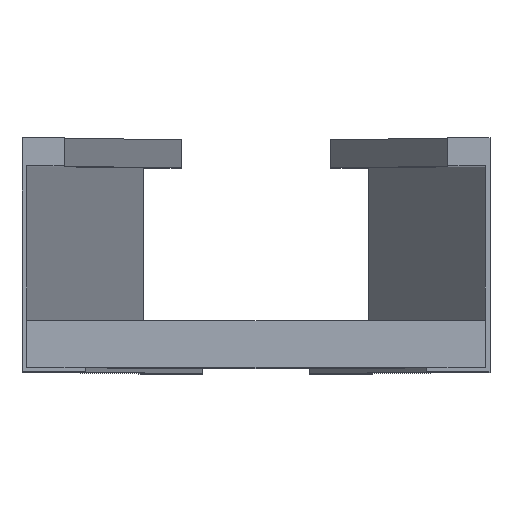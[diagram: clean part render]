
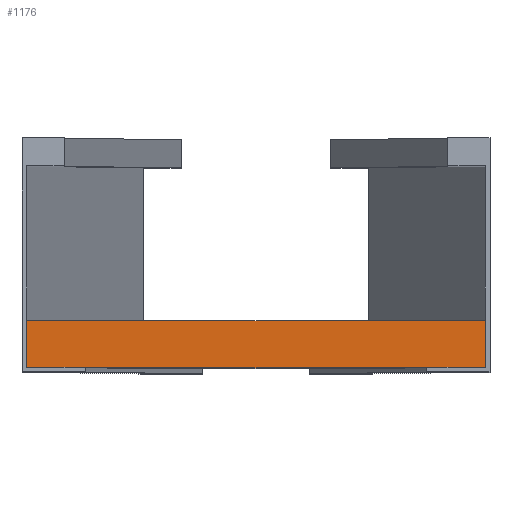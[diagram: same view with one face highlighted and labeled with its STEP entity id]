
A CAD part, top view. The second image highlights one B-rep face of the part: STEP entity #1176.
In plain terms, the highlighted planar face has unit normal (0, 0, 1).
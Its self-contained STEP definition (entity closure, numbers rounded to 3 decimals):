
#37 = ORIENTED_EDGE ( 'NONE', *, *, #247, .T. ) ;
#190 = CARTESIAN_POINT ( 'NONE',  ( 98., 0., 20.25 ) ) ;
#247 = EDGE_CURVE ( 'NONE', #2748, #1972, #1000, .T. ) ;
#248 = EDGE_CURVE ( 'NONE', #401, #2748, #1893, .T. ) ;
#401 = VERTEX_POINT ( 'NONE', #531 ) ;
#459 = ORIENTED_EDGE ( 'NONE', *, *, #248, .T. ) ;
#531 = CARTESIAN_POINT ( 'NONE',  ( 98., 20., 20.25 ) ) ;
#556 = CARTESIAN_POINT ( 'NONE',  ( -98., 20., 20.25 ) ) ;
#623 = ORIENTED_EDGE ( 'NONE', *, *, #3584, .F. ) ;
#802 = CARTESIAN_POINT ( 'NONE',  ( 98., 20., 20.25 ) ) ;
#803 = LINE ( 'NONE', #190, #2884 ) ;
#828 = VERTEX_POINT ( 'NONE', #3231 ) ;
#901 = DIRECTION ( 'NONE',  ( 0., -1., 0. ) ) ;
#1000 = LINE ( 'NONE', #1594, #2063 ) ;
#1104 = VECTOR ( 'NONE', #2492, 1000. ) ;
#1176 = ADVANCED_FACE ( 'NONE', ( #2421 ), #1479, .F. ) ;
#1479 = PLANE ( 'NONE',  #2393 ) ;
#1594 = CARTESIAN_POINT ( 'NONE',  ( -98., 20., 20.25 ) ) ;
#1891 = ORIENTED_EDGE ( 'NONE', *, *, #2219, .F. ) ;
#1893 = LINE ( 'NONE', #2811, #1104 ) ;
#1972 = VERTEX_POINT ( 'NONE', #2167 ) ;
#2019 = DIRECTION ( 'NONE',  ( 0., 0., -1. ) ) ;
#2020 = DIRECTION ( 'NONE',  ( -1., 0., 0. ) ) ;
#2063 = VECTOR ( 'NONE', #3400, 1000. ) ;
#2167 = CARTESIAN_POINT ( 'NONE',  ( -98., 0., 20.25 ) ) ;
#2205 = VECTOR ( 'NONE', #901, 1000. ) ;
#2219 = EDGE_CURVE ( 'NONE', #828, #1972, #803, .T. ) ;
#2366 = EDGE_LOOP ( 'NONE', ( #37, #1891, #623, #459 ) ) ;
#2393 = AXIS2_PLACEMENT_3D ( 'NONE', #802, #2019, #2938 ) ;
#2421 = FACE_OUTER_BOUND ( 'NONE', #2366, .T. ) ;
#2492 = DIRECTION ( 'NONE',  ( -1., 0., 0. ) ) ;
#2681 = LINE ( 'NONE', #3652, #2205 ) ;
#2748 = VERTEX_POINT ( 'NONE', #556 ) ;
#2811 = CARTESIAN_POINT ( 'NONE',  ( 98., 20., 20.25 ) ) ;
#2884 = VECTOR ( 'NONE', #2020, 1000. ) ;
#2938 = DIRECTION ( 'NONE',  ( 0., 1., 0. ) ) ;
#3231 = CARTESIAN_POINT ( 'NONE',  ( 98., 0., 20.25 ) ) ;
#3400 = DIRECTION ( 'NONE',  ( 0., -1., 0. ) ) ;
#3584 = EDGE_CURVE ( 'NONE', #401, #828, #2681, .T. ) ;
#3652 = CARTESIAN_POINT ( 'NONE',  ( 98., 20., 20.25 ) ) ;
